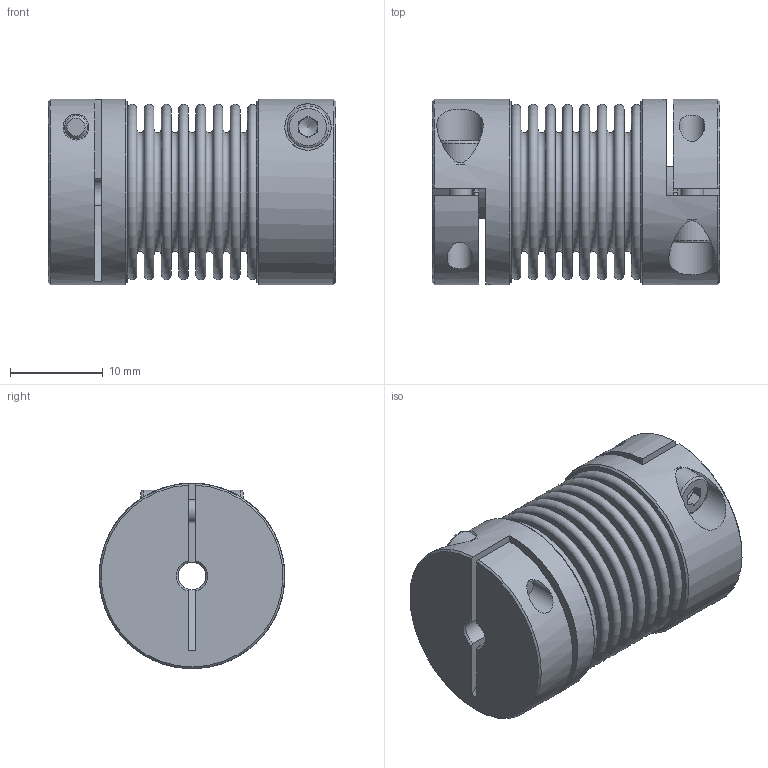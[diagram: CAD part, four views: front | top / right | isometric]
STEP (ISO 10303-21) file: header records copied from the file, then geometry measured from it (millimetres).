
FILE_DESCRIPTION(/* description */ ('STEP AP203'),/* implementation_level */ '2;1');
FILE_NAME(/* name */ 'KB2-15-31-3-3',/* time_stamp */ '2022-09-13T13:40:58+02:00',/* author */ ('License CC BY-ND 4.0'),/* organization */ ('CADENAS'),/* preprocessor_version */ 'ST-DEVELOPER v18.102',/* originating_system */ 'PARTsolutions',/* authorisation */ ' ');
FILE_SCHEMA (('CONFIG_CONTROL_DESIGN'));
Length unit declared in the file: millimetre
Products named in the file (1): KB2-15-31-3-3
Bounding box: 31 x 20 x 20 mm (x, y, z)
Volume: 5180.9 mm3; surface area: 8731.2 mm2
Topology: 1 solids, 1 shells, 146 faces, 298 edges, 194 vertices
Faces by surface type: plane 80, torus 32, cylinder 22, cone 12
Full cylindrical faces by diameter (mm): 2.5 x2, 2.8 x4, 3 x2, 4.5 x2, 5 x2, 13.56 x2, 20 x2
Entity records: 3548 total; most frequent: CARTESIAN_POINT 669, DIRECTION 628, ORIENTED_EDGE 452, AXIS2_PLACEMENT_3D 275, FACE_BOUND 246, EDGE_LOOP 244, EDGE_CURVE 226, VERTEX_POINT 180
